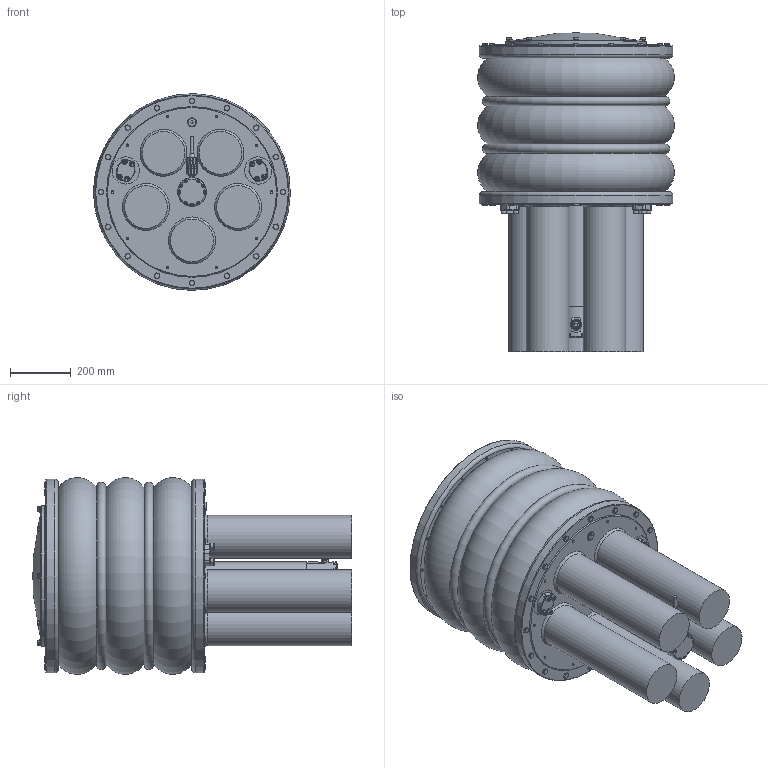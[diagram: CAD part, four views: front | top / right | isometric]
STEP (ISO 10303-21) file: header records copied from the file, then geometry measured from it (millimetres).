
FILE_DESCRIPTION(/* description */ ('Main Assembly'),/* implementation_level */ '2;1');
FILE_NAME(/* name */ 'C:\Users\Mathijs\Desktop\Steps\ME-0271-1102-Full.stp',/* time_stamp */ '2018-02-15T14:07:23+01:00',/* author */ ('Mathijs'),/* organization */ ('Seatools'),/* preprocessor_version */ 'ST-DEVELOPER v16.1',/* originating_system */ 'Autodesk Inventor 2016',/* authorisation */ '');
FILE_SCHEMA (('AUTOMOTIVE_DESIGN { 1 0 10303 214 3 1 1 }'));
Length unit declared in the file: millimetre
Products named in the file (1): ME-0271-1102-Full
Bounding box: 649.47 x 1055.5 x 649.61 mm (x, y, z)
Volume: 209133247.1 mm3; surface area: 3412213.7 mm2
Topology: 2 solids, 2 shells, 1444 faces, 3440 edges, 2178 vertices
Faces by surface type: plane 717, cone 337, cylinder 311, torus 53, bspline 18, sphere 8
Full cylindrical faces by diameter (mm): 5 x3, 5.3 x3, 6 x6, 6.4 x6, 6.647 x3, 8.376 x42, 8.5 x3, 9.188 x8, 10 x22, 10.5 x9, 11 x8, 11.113 x1, 15.4 x40, 16 x8, 17 x8, 20 x1, 25 x1, 25.5 x2, 26 x2, 28.575 x1, 30 x2, 33 x1, 90 x2, 94 x2, 141.3 x5, 465 x1, 640 x2
Entity records: 41964 total; most frequent: CARTESIAN_POINT 10551, DIRECTION 6238, ORIENTED_EDGE 5844, EDGE_CURVE 2922, AXIS2_PLACEMENT_3D 2575, EDGE_LOOP 2008, VERTEX_POINT 1994, STYLED_ITEM 1446
